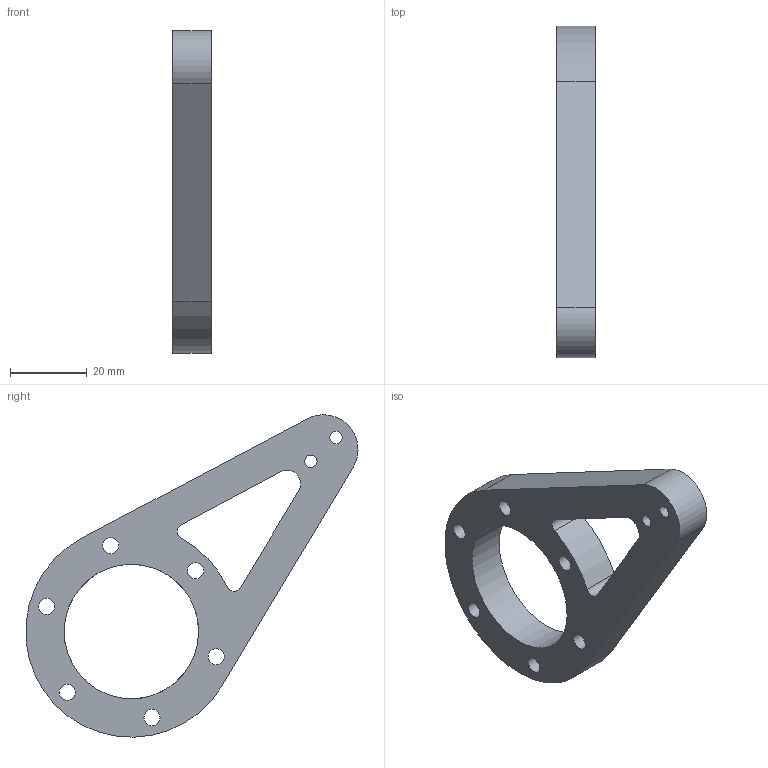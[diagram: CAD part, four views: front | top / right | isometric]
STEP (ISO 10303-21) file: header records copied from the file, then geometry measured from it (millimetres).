
FILE_DESCRIPTION(/* description */ ('CAx-IF Rec.Pracs.---Representation and Presentation of Product Manufacturing Information (PMI)---4.0---2014-10-13','CAx-IF Rec.Pracs.---3D Tessellated Geometry---0.4---2014-09-14','2;1'),/* implementation_level */ '2;1');
FILE_NAME(/* name */ 'qc1_t1_hip_rope_tool',/* time_stamp */ '2026-07-24T03:41:19+03:00',/* author */ (''),/* organization */ (''),/* preprocessor_version */ 'ST-DEVELOPER v19.4',/* originating_system */ 'SIEMENS PLM Software NX2306.1700',/* authorisation */ $);
FILE_SCHEMA (('AP242_MANAGED_MODEL_BASED_3D_ENGINEERING_MIM_LF { 1 0 10303 442 3 1 4 }'));
Length unit declared in the file: millimetre
Products named in the file (1): qc1_t1_hip_rope_tool
Bounding box: 10 x 86.38 x 83.89 mm (x, y, z)
Volume: 23953.7 mm3; surface area: 10398.9 mm2
Topology: 1 solids, 1 shells, 21 faces, 58 edges, 39 vertices
Faces by surface type: cylinder 15, plane 6
Full cylindrical faces by diameter (mm): 3.2 x2, 4.2 x6, 35 x1
Entity records: 698 total; most frequent: DIRECTION 122, CARTESIAN_POINT 108, ORIENTED_EDGE 96, AXIS2_PLACEMENT_3D 52, EDGE_LOOP 50, FACE_BOUND 50, EDGE_CURVE 48, VERTEX_POINT 38
